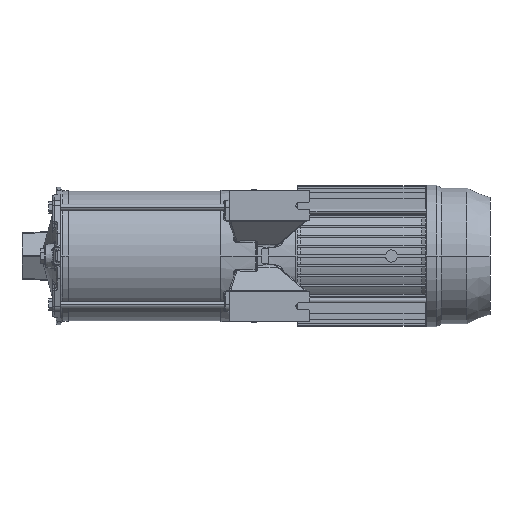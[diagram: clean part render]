
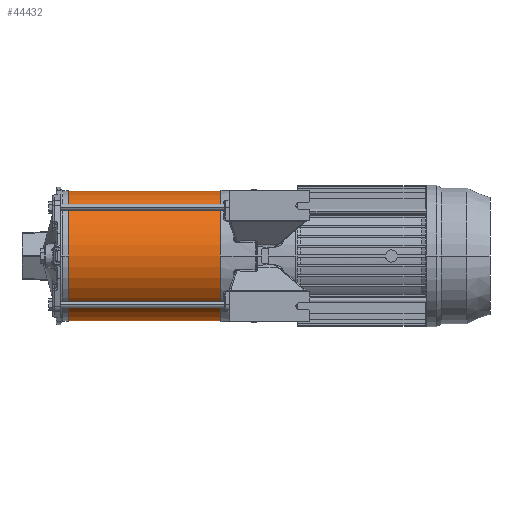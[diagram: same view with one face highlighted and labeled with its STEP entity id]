
A CAD part, front view. The second image highlights one B-rep face of the part: STEP entity #44432.
In plain terms, the highlighted cylindrical face has radius 64.5 mm (diameter 129 mm), a partial arc.
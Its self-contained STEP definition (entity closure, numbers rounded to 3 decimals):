
#44287=CARTESIAN_POINT('',(0.,0.,0.));
#44288=DIRECTION('',(0.,0.,1.));
#44289=DIRECTION('',(-1.,0.,0.));
#44290=AXIS2_PLACEMENT_3D('',#44287,#44288,#44289);
#44311=DIRECTION('',(0.,0.,1.));
#44312=VECTOR('',#44311,150.8);
#44313=CARTESIAN_POINT('',(64.5,0.,0.));
#44314=LINE('',#44313,#44312);
#44318=DIRECTION('',(0.,0.,1.));
#44319=VECTOR('',#44318,150.8);
#44320=CARTESIAN_POINT('',(-64.5,0.,0.));
#44321=LINE('',#44320,#44319);
#44333=CARTESIAN_POINT('',(0.,0.,150.8));
#44334=DIRECTION('',(0.,0.,1.));
#44335=DIRECTION('',(-1.,0.,0.));
#44336=AXIS2_PLACEMENT_3D('',#44333,#44334,#44335);
#44371=CARTESIAN_POINT('',(64.5,0.,0.));
#44372=CARTESIAN_POINT('',(-64.5,0.,0.));
#44373=VERTEX_POINT('',#44371);
#44374=VERTEX_POINT('',#44372);
#44379=CARTESIAN_POINT('',(64.5,0.,150.8));
#44380=CARTESIAN_POINT('',(-64.5,0.,150.8));
#44381=VERTEX_POINT('',#44379);
#44382=VERTEX_POINT('',#44380);
#44420=CARTESIAN_POINT('',(0.,0.,0.));
#44421=DIRECTION('',(0.,0.,1.));
#44422=DIRECTION('',(1.,0.,0.));
#44423=AXIS2_PLACEMENT_3D('',#44420,#44421,#44422);
#44424=CYLINDRICAL_SURFACE('',#44423,64.5);
#44425=ORIENTED_EDGE('',*,*,#44394,.F.);
#44426=ORIENTED_EDGE('',*,*,#44415,.T.);
#44428=ORIENTED_EDGE('',*,*,#44427,.T.);
#44429=ORIENTED_EDGE('',*,*,#44411,.F.);
#44430=EDGE_LOOP('',(#44425,#44426,#44428,#44429));
#44431=FACE_OUTER_BOUND('',#44430,.F.);
#44291=CIRCLE('',#44290,64.5);
#44337=CIRCLE('',#44336,64.5);
#44394=EDGE_CURVE('',#44374,#44373,#44291,.T.);
#44411=EDGE_CURVE('',#44373,#44381,#44314,.T.);
#44415=EDGE_CURVE('',#44374,#44382,#44321,.T.);
#44427=EDGE_CURVE('',#44382,#44381,#44337,.T.);
#44432=ADVANCED_FACE('',(#44431),#44424,.T.);
